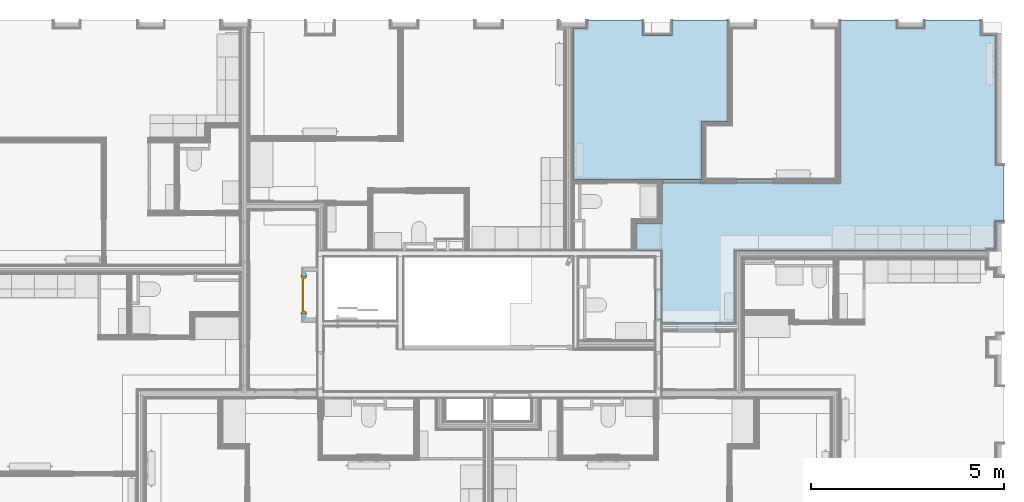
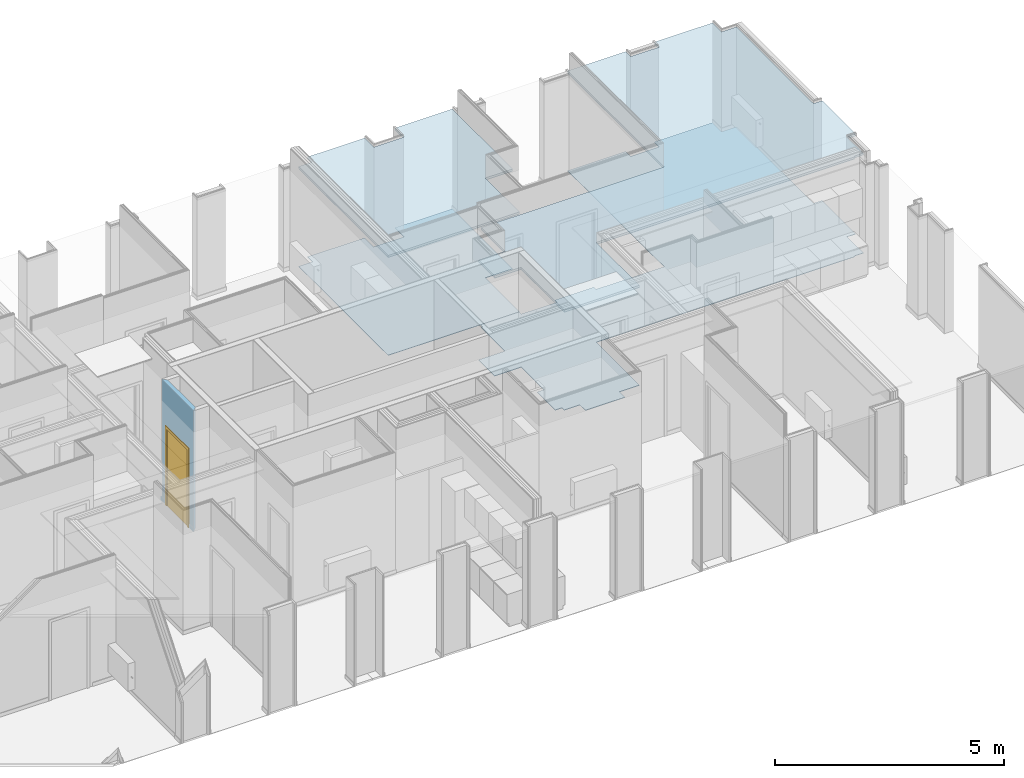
# One storey, part 46 of 64: 6 slabs, 1 door, 1 opening, plus 1 element that does not belong to this part.
"""IFC2X3 building model written with IfcOpenShell, lengths in metres."""

from ifc_helpers import new_model, entity, si_unit, converted_unit, derived_unit, money_unit, direction, frame, frame_2d, origin_with_axes, place, context, subcontext, project, spatial, polyline, rectangle, outline, extrude, clip, bounded_halfspace, faceted_brep, material, layer, layer_set, layer_usage, type_object, element, fill, save


model = new_model("IFC2X3")

# Units and contexts
model_context = context("Model", 3, precision=1e-05, world=origin_with_axes(), true_north=direction((0.0, 1.0)))
body_context = subcontext(model_context, "Body", "Model", "MODEL_VIEW", scale=1.0)
ifc_project = project(units=[si_unit("LENGTHUNIT", "METRE"), si_unit("AREAUNIT", "SQUARE_METRE"), si_unit("VOLUMEUNIT", "CUBIC_METRE"), si_unit("ABSORBEDDOSEUNIT", "GRAY"), si_unit("AMOUNTOFSUBSTANCEUNIT", "MOLE"), si_unit("DOSEEQUIVALENTUNIT", "SIEVERT"), si_unit("ELECTRICCAPACITANCEUNIT", "FARAD"), si_unit("ELECTRICCHARGEUNIT", "COULOMB"), si_unit("ELECTRICCONDUCTANCEUNIT", "SIEMENS"), si_unit("ELECTRICCURRENTUNIT", "AMPERE"), si_unit("ELECTRICRESISTANCEUNIT", "OHM"), si_unit("ELECTRICVOLTAGEUNIT", "VOLT"), si_unit("ENERGYUNIT", "JOULE"), si_unit("FORCEUNIT", "NEWTON"), si_unit("FREQUENCYUNIT", "HERTZ"), si_unit("ILLUMINANCEUNIT", "LUX"), si_unit("INDUCTANCEUNIT", "HENRY"), si_unit("LUMINOUSFLUXUNIT", "LUMEN"), si_unit("LUMINOUSINTENSITYUNIT", "CANDELA"), si_unit("MAGNETICFLUXDENSITYUNIT", "TESLA"), si_unit("MAGNETICFLUXUNIT", "WEBER"), si_unit("MASSUNIT", "GRAM"), converted_unit("PLANEANGLEUNIT", "degree", entity("IfcReal", 0.0174532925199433), si_unit("PLANEANGLEUNIT", "RADIAN"), dimensions=[0, 0, 0, 0, 0, 0, 0]), si_unit("POWERUNIT", "WATT"), si_unit("PRESSUREUNIT", "PASCAL"), si_unit("RADIOACTIVITYUNIT", "BECQUEREL"), si_unit("SOLIDANGLEUNIT", "STERADIAN"), si_unit("THERMODYNAMICTEMPERATUREUNIT", "KELVIN"), si_unit("TIMEUNIT", "SECOND"), derived_unit("ACCELERATIONUNIT", [(si_unit("LENGTHUNIT", "METRE"), 1), (si_unit("TIMEUNIT", "SECOND"), -2)]), derived_unit("ANGULARVELOCITYUNIT", [(converted_unit("PLANEANGLEUNIT", "degree", entity("IfcReal", 0.0174532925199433), si_unit("PLANEANGLEUNIT", "RADIAN"), dimensions=[0, 0, 0, 0, 0, 0, 0]), 1), (si_unit("TIMEUNIT", "SECOND"), -1)]), derived_unit("CURVATUREUNIT", [(converted_unit("PLANEANGLEUNIT", "degree", entity("IfcReal", 0.0174532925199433), si_unit("PLANEANGLEUNIT", "RADIAN"), dimensions=[0, 0, 0, 0, 0, 0, 0]), 1), (si_unit("LENGTHUNIT", "METRE"), -1)]), derived_unit("DYNAMICVISCOSITYUNIT", [(si_unit("PRESSUREUNIT", "PASCAL"), 1), (si_unit("TIMEUNIT", "SECOND"), 1)]), derived_unit("HEATFLUXDENSITYUNIT", [(si_unit("POWERUNIT", "WATT"), 1), (si_unit("LENGTHUNIT", "METRE"), -2)]), derived_unit("HEATINGVALUEUNIT", [(si_unit("ENERGYUNIT", "JOULE"), 1), (si_unit("MASSUNIT", "GRAM"), -1)]), derived_unit("INTEGERCOUNTRATEUNIT", [(si_unit("TIMEUNIT", "SECOND"), -1)]), derived_unit("IONCONCENTRATIONUNIT", [(si_unit("MASSUNIT", "GRAM"), 1), (si_unit("VOLUMEUNIT", "CUBIC_METRE"), -1)]), derived_unit("ISOTHERMALMOISTURECAPACITYUNIT", [(si_unit("VOLUMEUNIT", "CUBIC_METRE"), 1), (si_unit("MASSUNIT", "GRAM"), -1)]), derived_unit("KINEMATICVISCOSITYUNIT", [(si_unit("AREAUNIT", "SQUARE_METRE"), 1), (si_unit("TIMEUNIT", "SECOND"), -1)]), derived_unit("LINEARFORCEUNIT", [(si_unit("FORCEUNIT", "NEWTON"), 1), (si_unit("LENGTHUNIT", "METRE"), -1)]), derived_unit("LINEARMOMENTUNIT", [(si_unit("FORCEUNIT", "NEWTON"), 1), (si_unit("LENGTHUNIT", "METRE"), -1)]), derived_unit("LINEARSTIFFNESSUNIT", [(si_unit("FORCEUNIT", "NEWTON"), 1), (si_unit("LENGTHUNIT", "METRE"), -1)]), derived_unit("LINEARVELOCITYUNIT", [(si_unit("LENGTHUNIT", "METRE"), 1), (si_unit("TIMEUNIT", "SECOND"), -1)]), derived_unit("LUMINOUSINTENSITYDISTRIBUTIONUNIT", [(si_unit("LUMINOUSINTENSITYUNIT", "CANDELA"), 1), (si_unit("LUMINOUSFLUXUNIT", "LUMEN"), -1)]), derived_unit("MASSDENSITYUNIT", [(si_unit("MASSUNIT", "GRAM"), 1), (si_unit("VOLUMEUNIT", "CUBIC_METRE"), -1)]), derived_unit("MASSFLOWRATEUNIT", [(si_unit("MASSUNIT", "GRAM"), 1), (si_unit("TIMEUNIT", "SECOND"), -1)]), derived_unit("MASSPERLENGTHUNIT", [(si_unit("MASSUNIT", "GRAM"), 1), (si_unit("LENGTHUNIT", "METRE"), -1)]), derived_unit("MODULUSOFELASTICITYUNIT", [(si_unit("FORCEUNIT", "NEWTON"), 1), (si_unit("AREAUNIT", "SQUARE_METRE"), -1)]), derived_unit("MODULUSOFLINEARSUBGRADEREACTIONUNIT", [(si_unit("FORCEUNIT", "NEWTON"), 1), (si_unit("LENGTHUNIT", "METRE"), -2)]), derived_unit("MODULUSOFROTATIONALSUBGRADEREACTIONUNIT", [(si_unit("FORCEUNIT", "NEWTON"), 1), (si_unit("LENGTHUNIT", "METRE"), 1)]), derived_unit("MODULUSOFSUBGRADEREACTIONUNIT", [(si_unit("FORCEUNIT", "NEWTON"), 1), (si_unit("VOLUMEUNIT", "CUBIC_METRE"), -1)]), derived_unit("MOISTUREDIFFUSIVITYUNIT", [(si_unit("VOLUMEUNIT", "CUBIC_METRE"), 1), (si_unit("TIMEUNIT", "SECOND"), -1)]), derived_unit("MOLECULARWEIGHTUNIT", [(si_unit("MASSUNIT", "GRAM"), 1), (si_unit("AMOUNTOFSUBSTANCEUNIT", "MOLE"), -1)]), derived_unit("PLANARFORCEUNIT", [(si_unit("FORCEUNIT", "NEWTON"), 1), (si_unit("LENGTHUNIT", "METRE"), -2)]), derived_unit("ROTATIONALFREQUENCYUNIT", [(si_unit("TIMEUNIT", "SECOND"), -1)]), derived_unit("ROTATIONALMASSUNIT", [(si_unit("MASSUNIT", "GRAM"), 1), (si_unit("LENGTHUNIT", "METRE"), 2)]), derived_unit("ROTATIONALSTIFFNESSUNIT", [(si_unit("FORCEUNIT", "NEWTON"), 1), (si_unit("LENGTHUNIT", "METRE"), 1), (converted_unit("PLANEANGLEUNIT", "degree", entity("IfcReal", 0.0174532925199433), si_unit("PLANEANGLEUNIT", "RADIAN"), dimensions=[0, 0, 0, 0, 0, 0, 0]), -1)]), derived_unit("SECTIONAREAINTEGRALUNIT", [(si_unit("LENGTHUNIT", "METRE"), 5)]), derived_unit("SECTIONMODULUSUNIT", [(si_unit("LENGTHUNIT", "METRE"), 3)]), derived_unit("SHEARMODULUSUNIT", [(si_unit("FORCEUNIT", "NEWTON"), 1), (si_unit("AREAUNIT", "SQUARE_METRE"), -1)]), derived_unit("SOUNDPOWERUNIT", [(si_unit("ENERGYUNIT", "JOULE"), 1), (si_unit("TIMEUNIT", "SECOND"), -1)]), derived_unit("SPECIFICHEATCAPACITYUNIT", [(si_unit("FORCEUNIT", "NEWTON"), 1), (si_unit("MASSUNIT", "GRAM"), -1), (si_unit("THERMODYNAMICTEMPERATUREUNIT", "KELVIN"), -1)]), derived_unit("TEMPERATUREGRADIENTUNIT", [(si_unit("THERMODYNAMICTEMPERATUREUNIT", "KELVIN"), 1), (si_unit("LENGTHUNIT", "METRE"), -1)]), derived_unit("THERMALADMITTANCEUNIT", [(si_unit("POWERUNIT", "WATT"), 1), (si_unit("AREAUNIT", "SQUARE_METRE"), -1), (si_unit("THERMODYNAMICTEMPERATUREUNIT", "KELVIN"), -1)]), derived_unit("THERMALCONDUCTANCEUNIT", [(si_unit("POWERUNIT", "WATT"), 1), (si_unit("LENGTHUNIT", "METRE"), -1), (si_unit("THERMODYNAMICTEMPERATUREUNIT", "KELVIN"), -1)]), derived_unit("THERMALEXPANSIONCOEFFICIENTUNIT", [(si_unit("THERMODYNAMICTEMPERATUREUNIT", "KELVIN"), -1)]), derived_unit("THERMALRESISTANCEUNIT", [(si_unit("AREAUNIT", "SQUARE_METRE"), 1), (si_unit("POWERUNIT", "WATT"), -1)]), derived_unit("THERMALTRANSMITTANCEUNIT", [(si_unit("POWERUNIT", "WATT"), 1), (si_unit("AREAUNIT", "SQUARE_METRE"), -1), (si_unit("THERMODYNAMICTEMPERATUREUNIT", "KELVIN"), -1)]), derived_unit("TORQUEUNIT", [(si_unit("FORCEUNIT", "NEWTON"), 1), (si_unit("LENGTHUNIT", "METRE"), 1)]), derived_unit("VAPORPERMEABILITYUNIT", [(si_unit("MASSUNIT", "GRAM"), 1), (si_unit("TIMEUNIT", "SECOND"), -1)]), derived_unit("VOLUMETRICFLOWRATEUNIT", [(si_unit("VOLUMEUNIT", "CUBIC_METRE"), 1), (si_unit("TIMEUNIT", "SECOND"), -1)]), derived_unit("WARPINGCONSTANTUNIT", [(si_unit("LENGTHUNIT", "METRE"), 6)]), derived_unit("WARPINGMOMENTUNIT", [(si_unit("FORCEUNIT", "NEWTON"), 1), (si_unit("LENGTHUNIT", "METRE"), 2)]), money_unit("GBP")], contexts=[model_context])

# Site, building, storey
site_placement = place(None, origin_with_axes())
site = spatial("IfcSite", under=ifc_project, at=site_placement, Name="Site", CompositionType="ELEMENT")
building_placement = place(site_placement, origin_with_axes())
building = spatial("IfcBuilding", under=site, at=building_placement, Name="Building01", CompositionType="ELEMENT")
storey_placement = place(building_placement, frame((0.0, 0.0, 8.64), z_axis=(0.0, 0.0, 1.0), x_axis=(1.0, 0.0, 0.0)))
storey = spatial("IfcBuildingStorey", under=building, at=storey_placement, Name="2F", CompositionType="ELEMENT", Elevation=8.64)

# Slabs
ifc_material_1 = material(Name="A_BSUK_Parquet_Floor")
slab_type_1 = type_object("IfcSlabType", Name="A-FloorsSlabs A_BSUK_Slabs", PredefinedType="FLOOR")
placement = place(storey_placement, frame((0.0, 0.0, -8.64), z_axis=(0.0, 0.0, 1.0), x_axis=(1.0, 0.0, 0.0)))
element("IfcSlab", 1, at=placement, inside=storey, type_object=slab_type_1, material=ifc_material_1, Name="A-FloorsSlabs A_BSUK_Slabs", ObjectType="CompoundSlabLeaf", context=body_context, shape_type="Brep", body=[
    faceted_brep([(18.392, 6.69, 8.643), (18.392, 6.69, 8.655), (18.392, 6.93, 8.655), (18.392, 6.93, 8.643), (19.392, 6.69, 8.643), (19.392, 6.69, 8.655), (19.392, 6.93, 8.643), (19.392, 6.93, 8.655), (19.897661, 6.93, 8.643), (19.897661, 6.93, 8.655), (19.897661, 8.82, 8.643), (19.897661, 8.82, 8.655), (26.432, 8.82, 8.643), (26.432, 8.82, 8.655), (26.432, 8.848, 8.643), (26.432, 8.848, 8.655), (26.662, 8.848, 8.643), (26.662, 8.848, 8.655), (26.662, 9.56218, 8.643), (26.662, 9.56218, 8.655), (26.88, 9.56218, 8.643), (26.88, 9.56218, 8.655), (26.88, 11.03218, 8.643), (26.88, 11.03218, 8.655), (26.662, 11.03218, 8.643), (26.662, 11.03218, 8.655), (26.662, 14.402, 8.643), (26.662, 14.402, 8.655), (26.285, 14.402, 8.643), (26.285, 14.402, 8.655), (26.285, 14.8, 8.643), (26.285, 14.8, 8.655), (24.815, 14.8, 8.643), (24.815, 14.8, 8.655), (24.815, 14.582, 8.643), (24.815, 14.582, 8.655), (24.095, 14.582, 8.643), (24.095, 14.582, 8.655), (24.095, 14.8, 8.643), (24.095, 14.8, 8.655), (22.625, 14.8, 8.643), (22.625, 14.8, 8.655), (22.625, 10.57, 8.643), (22.625, 10.57, 8.655), (20.902284, 10.57, 8.643), (20.902284, 10.57, 8.655), (20.902284, 10.665, 8.643), (20.902284, 10.665, 8.655), (19.918284, 10.665, 8.643), (19.918284, 10.665, 8.655), (19.918284, 10.57, 8.643), (19.918284, 10.57, 8.655), (19.017398, 10.57, 8.643), (19.017398, 10.57, 8.655), (19.017398, 10.665, 8.643), (19.017398, 10.665, 8.655), (18.033398, 10.665, 8.643), (18.033398, 10.665, 8.655), (18.033398, 10.57, 8.643), (18.033398, 10.57, 8.655), (18.0, 10.57, 8.643), (18.0, 10.57, 8.655), (18.0, 9.967396, 8.643), (18.0, 9.967396, 8.655), (18.0, 9.525, 8.643), (18.0, 9.525, 8.655), (17.333132, 9.525, 8.643), (17.333132, 9.525, 8.655), (17.333132, 8.82, 8.643), (17.333132, 8.82, 8.655), (17.905, 8.82, 8.643), (17.905, 8.82, 8.655), (18.0, 8.82, 8.643), (18.0, 8.82, 8.655), (18.0, 7.82088, 8.643), (18.0, 7.82088, 8.655), (17.83, 7.82088, 8.643), (17.83, 7.82088, 8.655), (17.83, 7.02888, 8.643), (17.83, 7.02888, 8.655), (18.0, 7.02888, 8.643), (18.0, 7.02888, 8.655), (18.0, 6.93, 8.643), (18.0, 6.93, 8.655)], [[[0, 1, 2, 3]], [[4, 5, 1, 0]], [[6, 7, 5, 4]], [[8, 9, 7, 6]], [[10, 11, 9, 8]], [[12, 13, 11, 10]], [[14, 15, 13, 12]], [[16, 17, 15, 14]], [[18, 19, 17, 16]], [[20, 21, 19, 18]], [[22, 23, 21, 20]], [[24, 25, 23, 22]], [[26, 27, 25, 24]], [[28, 29, 27, 26]], [[30, 31, 29, 28]], [[32, 33, 31, 30]], [[34, 35, 33, 32]], [[36, 37, 35, 34]], [[38, 39, 37, 36]], [[40, 41, 39, 38]], [[42, 43, 41, 40]], [[44, 45, 43, 42]], [[46, 47, 45, 44]], [[48, 49, 47, 46]], [[50, 51, 49, 48]], [[52, 53, 51, 50]], [[54, 55, 53, 52]], [[56, 57, 55, 54]], [[58, 59, 57, 56]], [[60, 61, 59, 58]], [[62, 63, 61, 60]], [[64, 65, 63, 62]], [[66, 67, 65, 64]], [[68, 69, 67, 66]], [[70, 71, 69, 68]], [[72, 73, 71, 70]], [[74, 75, 73, 72]], [[76, 77, 75, 74]], [[78, 79, 77, 76]], [[80, 81, 79, 78]], [[82, 83, 81, 80]], [[3, 2, 83, 82]], [[1, 5, 7, 9, 11, 13, 15, 17, 19, 21, 23, 25, 27, 29, 31, 33, 35, 37, 39, 41, 43, 45, 47, 49, 51, 53, 55, 57, 59, 61, 63, 65, 67, 69, 71, 73, 75, 77, 79, 81, 83, 2]], [[3, 82, 80, 78, 76, 74, 72, 70, 68, 66, 64, 62, 60, 58, 56, 54, 52, 50, 48, 46, 44, 42, 40, 38, 36, 34, 32, 30, 28, 26, 24, 22, 20, 18, 16, 14, 12, 10, 8, 6, 4, 0]]]),
])
ifc_material_2 = material(Name="A_BSUK_Carpet-Pile")
element("IfcSlab", 2, at=placement, inside=storey, type_object=slab_type_1, material=ifc_material_2, Name="A-FloorsSlabs A_BSUK_Slabs", ObjectType="CompoundSlabLeaf", context=body_context, shape_type="Brep", body=[
    faceted_brep([(15.708132, 10.665, 8.643), (15.708132, 10.665, 8.655), (15.708132, 14.582, 8.655), (15.708132, 14.582, 8.643), (19.025284, 10.665, 8.643), (19.025284, 10.665, 8.655), (19.025284, 12.159378, 8.643), (19.025284, 12.159378, 8.655), (19.715, 12.159378, 8.643), (19.715, 12.159378, 8.655), (19.715, 14.8, 8.643), (19.715, 14.8, 8.655), (18.268, 14.8, 8.643), (18.268, 14.8, 8.655), (18.268, 14.402, 8.643), (18.268, 14.402, 8.655), (17.502, 14.402, 8.643), (17.502, 14.402, 8.655), (17.502, 14.8, 8.643), (17.502, 14.8, 8.655), (16.055, 14.8, 8.643), (16.055, 14.8, 8.655), (16.055, 14.582, 8.643), (16.055, 14.582, 8.655)], [[[0, 1, 2, 3]], [[4, 5, 1, 0]], [[6, 7, 5, 4]], [[8, 9, 7, 6]], [[10, 11, 9, 8]], [[12, 13, 11, 10]], [[14, 15, 13, 12]], [[16, 17, 15, 14]], [[18, 19, 17, 16]], [[20, 21, 19, 18]], [[22, 23, 21, 20]], [[3, 2, 23, 22]], [[1, 5, 7, 9, 11, 13, 15, 17, 19, 21, 23, 2]], [[3, 22, 20, 18, 16, 14, 12, 10, 8, 6, 4, 0]]]),
])
ifc_material_3 = material(Name="A_BSUK_CeilingSoffitFinishes_Suspended")
element("IfcSlab", 3, at=placement, inside=storey, type_object=slab_type_1, material=ifc_material_3, Name="A-FloorsSlabs A_BSUK_Slabs", ObjectType="CompoundSlabLeaf", context=body_context, shape_type="Brep", body=[
    faceted_brep([(18.395, 6.93, 11.255), (18.395, 6.93, 11.27), (18.0, 6.93, 11.27), (18.0, 6.93, 11.255), (19.395, 6.93, 11.255), (19.395, 6.93, 11.27), (19.897661, 6.93, 11.255), (19.897661, 6.93, 11.27), (19.897661, 8.82, 11.255), (19.897661, 8.82, 11.27), (26.417, 8.82, 11.255), (26.417, 8.82, 11.27), (26.417, 8.863, 11.255), (26.417, 8.863, 11.27), (26.647, 8.863, 11.255), (26.647, 8.863, 11.27), (26.647, 9.57718, 11.255), (26.647, 9.57718, 11.27), (26.88, 9.57718, 11.255), (26.88, 9.57718, 11.27), (26.88, 11.03218, 11.255), (26.88, 11.03218, 11.27), (26.662, 11.03218, 11.255), (26.662, 11.03218, 11.27), (26.662, 14.402, 11.255), (26.662, 14.402, 11.27), (26.285, 14.402, 11.255), (26.285, 14.402, 11.27), (26.285, 14.8, 11.255), (26.285, 14.8, 11.27), (24.815, 14.8, 11.255), (24.815, 14.8, 11.27), (24.815, 14.582, 11.255), (24.815, 14.582, 11.27), (24.095, 14.582, 11.255), (24.095, 14.582, 11.27), (24.095, 14.8, 11.255), (24.095, 14.8, 11.27), (22.625, 14.8, 11.255), (22.625, 14.8, 11.27), (22.625, 10.57, 11.255), (22.625, 10.57, 11.27), (19.891284, 10.57, 11.255), (19.891284, 10.57, 11.27), (19.044398, 10.57, 11.255), (19.044398, 10.57, 11.27), (18.0, 10.57, 11.255), (18.0, 10.57, 11.27), (18.0, 9.525, 11.255), (18.0, 9.525, 11.27), (17.333132, 9.525, 11.255), (17.333132, 9.525, 11.27), (17.333132, 8.82, 11.255), (17.333132, 8.82, 11.27), (18.0, 8.82, 11.255), (18.0, 8.82, 11.27), (18.0, 7.82088, 11.255), (18.0, 7.82088, 11.27), (18.0, 7.02888, 11.255), (18.0, 7.02888, 11.27)], [[[0, 1, 2, 3]], [[4, 5, 1, 0]], [[6, 7, 5, 4]], [[8, 9, 7, 6]], [[10, 11, 9, 8]], [[12, 13, 11, 10]], [[14, 15, 13, 12]], [[16, 17, 15, 14]], [[18, 19, 17, 16]], [[20, 21, 19, 18]], [[22, 23, 21, 20]], [[24, 25, 23, 22]], [[26, 27, 25, 24]], [[28, 29, 27, 26]], [[30, 31, 29, 28]], [[32, 33, 31, 30]], [[34, 35, 33, 32]], [[36, 37, 35, 34]], [[38, 39, 37, 36]], [[40, 41, 39, 38]], [[42, 43, 41, 40]], [[44, 45, 43, 42]], [[46, 47, 45, 44]], [[48, 49, 47, 46]], [[50, 51, 49, 48]], [[52, 53, 51, 50]], [[54, 55, 53, 52]], [[56, 57, 55, 54]], [[58, 59, 57, 56]], [[3, 2, 59, 58]], [[1, 5, 7, 9, 11, 13, 15, 17, 19, 21, 23, 25, 27, 29, 31, 33, 35, 37, 39, 41, 43, 45, 47, 49, 51, 53, 55, 57, 59, 2]], [[3, 58, 56, 54, 52, 50, 48, 46, 44, 42, 40, 38, 36, 34, 32, 30, 28, 26, 24, 22, 20, 18, 16, 14, 12, 10, 8, 6, 4, 0]]]),
])
element("IfcSlab", 4, at=placement, inside=storey, type_object=slab_type_1, material=ifc_material_3, Name="A-FloorsSlabs A_BSUK_Slabs", ObjectType="CompoundSlabLeaf", context=body_context, shape_type="Brep", body=[
    faceted_brep([(15.708132, 10.665, 11.255), (15.708132, 10.665, 11.27), (15.708132, 14.567, 11.27), (15.708132, 14.567, 11.255), (19.025284, 10.665, 11.255), (19.025284, 10.665, 11.27), (19.025284, 12.159378, 11.255), (19.025284, 12.159378, 11.27), (19.715, 12.159378, 11.255), (19.715, 12.159378, 11.27), (19.715, 14.8, 11.255), (19.715, 14.8, 11.27), (18.268, 14.8, 11.255), (18.268, 14.8, 11.27), (18.268, 14.402, 11.255), (18.268, 14.402, 11.27), (17.502, 14.402, 11.255), (17.502, 14.402, 11.27), (17.502, 14.8, 11.255), (17.502, 14.8, 11.27), (16.070124, 14.8, 11.255), (16.070124, 14.8, 11.27), (16.070124, 14.567, 11.255), (16.070124, 14.567, 11.27)], [[[0, 1, 2, 3]], [[4, 5, 1, 0]], [[6, 7, 5, 4]], [[8, 9, 7, 6]], [[10, 11, 9, 8]], [[12, 13, 11, 10]], [[14, 15, 13, 12]], [[16, 17, 15, 14]], [[18, 19, 17, 16]], [[20, 21, 19, 18]], [[22, 23, 21, 20]], [[3, 2, 23, 22]], [[1, 5, 7, 9, 11, 13, 15, 17, 19, 21, 23, 2]], [[3, 22, 20, 18, 16, 14, 12, 10, 8, 6, 4, 0]]]),
])
ifc_material_4 = material(Name="A_BSUK_ExpandedPolystyreneBoards")
slab_type_2 = type_object("IfcSlabType", Name="A-FloorsSlabs A_BSUK_ExpandedPolystyreneBoards", PredefinedType="FLOOR")
element("IfcSlab", 5, at=placement, inside=storey, type_object=slab_type_2, material=ifc_material_4, Name="A-FloorsSlabs A_BSUK_ExpandedPolystyreneBoards", ObjectType="CompoundSlabLeaf", context=body_context, shape_type="Brep", body=[
    faceted_brep([(18.395, 6.93, 11.27), (18.395, 6.93, 11.32), (18.0, 6.93, 11.32), (18.0, 6.93, 11.27), (19.395, 6.93, 11.27), (19.395, 6.93, 11.32), (19.897661, 6.93, 11.27), (19.897661, 6.93, 11.32), (19.897661, 8.82, 11.27), (19.897661, 8.82, 11.32), (26.432, 8.82, 11.27), (26.432, 8.82, 11.32), (26.432, 8.848, 11.27), (26.432, 8.848, 11.32), (26.662, 8.848, 11.27), (26.662, 8.848, 11.32), (26.662, 9.56218, 11.27), (26.662, 9.56218, 11.32), (26.88, 9.56218, 11.27), (26.88, 9.56218, 11.32), (26.88, 11.03218, 11.27), (26.88, 11.03218, 11.32), (26.662, 11.03218, 11.27), (26.662, 11.03218, 11.32), (26.662, 14.402, 11.27), (26.662, 14.402, 11.32), (26.285, 14.402, 11.27), (26.285, 14.402, 11.32), (26.285, 14.8, 11.27), (26.285, 14.8, 11.32), (24.815, 14.8, 11.27), (24.815, 14.8, 11.32), (24.815, 14.582, 11.27), (24.815, 14.582, 11.32), (24.095, 14.582, 11.27), (24.095, 14.582, 11.32), (24.095, 14.8, 11.27), (24.095, 14.8, 11.32), (22.625, 14.8, 11.27), (22.625, 14.8, 11.32), (22.625, 10.57, 11.27), (22.625, 10.57, 11.32), (19.891284, 10.57, 11.27), (19.891284, 10.57, 11.32), (19.044398, 10.57, 11.27), (19.044398, 10.57, 11.32), (18.0, 10.57, 11.27), (18.0, 10.57, 11.32), (18.0, 9.525, 11.27), (18.0, 9.525, 11.32), (17.333132, 9.525, 11.27), (17.333132, 9.525, 11.32), (17.333132, 8.82, 11.27), (17.333132, 8.82, 11.32), (18.0, 8.82, 11.27), (18.0, 8.82, 11.32), (18.0, 7.82088, 11.27), (18.0, 7.82088, 11.32), (18.0, 7.02888, 11.27), (18.0, 7.02888, 11.32)], [[[0, 1, 2, 3]], [[4, 5, 1, 0]], [[6, 7, 5, 4]], [[8, 9, 7, 6]], [[10, 11, 9, 8]], [[12, 13, 11, 10]], [[14, 15, 13, 12]], [[16, 17, 15, 14]], [[18, 19, 17, 16]], [[20, 21, 19, 18]], [[22, 23, 21, 20]], [[24, 25, 23, 22]], [[26, 27, 25, 24]], [[28, 29, 27, 26]], [[30, 31, 29, 28]], [[32, 33, 31, 30]], [[34, 35, 33, 32]], [[36, 37, 35, 34]], [[38, 39, 37, 36]], [[40, 41, 39, 38]], [[42, 43, 41, 40]], [[44, 45, 43, 42]], [[46, 47, 45, 44]], [[48, 49, 47, 46]], [[50, 51, 49, 48]], [[52, 53, 51, 50]], [[54, 55, 53, 52]], [[56, 57, 55, 54]], [[58, 59, 57, 56]], [[3, 2, 59, 58]], [[1, 5, 7, 9, 11, 13, 15, 17, 19, 21, 23, 25, 27, 29, 31, 33, 35, 37, 39, 41, 43, 45, 47, 49, 51, 53, 55, 57, 59, 2]], [[3, 58, 56, 54, 52, 50, 48, 46, 44, 42, 40, 38, 36, 34, 32, 30, 28, 26, 24, 22, 20, 18, 16, 14, 12, 10, 8, 6, 4, 0]]]),
])
element("IfcSlab", 6, at=placement, inside=storey, type_object=slab_type_2, material=ifc_material_4, Name="A-FloorsSlabs A_BSUK_ExpandedPolystyreneBoards", ObjectType="CompoundSlabLeaf", context=body_context, shape_type="Brep", body=[
    faceted_brep([(15.708132, 10.665, 11.27), (15.708132, 10.665, 11.32), (15.708132, 14.582, 11.32), (15.708132, 14.582, 11.27), (19.025284, 10.665, 11.27), (19.025284, 10.665, 11.32), (19.025284, 12.159378, 11.27), (19.025284, 12.159378, 11.32), (19.715, 12.159378, 11.27), (19.715, 12.159378, 11.32), (19.715, 14.8, 11.27), (19.715, 14.8, 11.32), (18.268, 14.8, 11.27), (18.268, 14.8, 11.32), (18.268, 14.402, 11.27), (18.268, 14.402, 11.32), (17.502, 14.402, 11.27), (17.502, 14.402, 11.32), (17.502, 14.8, 11.27), (17.502, 14.8, 11.32), (16.055, 14.8, 11.27), (16.055, 14.8, 11.32), (16.055, 14.582, 11.27), (16.055, 14.582, 11.32)], [[[0, 1, 2, 3]], [[4, 5, 1, 0]], [[6, 7, 5, 4]], [[8, 9, 7, 6]], [[10, 11, 9, 8]], [[12, 13, 11, 10]], [[14, 15, 13, 12]], [[16, 17, 15, 14]], [[18, 19, 17, 16]], [[20, 21, 19, 18]], [[22, 23, 21, 20]], [[3, 2, 23, 22]], [[1, 5, 7, 9, 11, 13, 15, 17, 19, 21, 23, 2]], [[3, 22, 20, 18, 16, 14, 12, 10, 8, 6, 4, 0]]]),
])

# Wall, opening
ifc_material_5 = material(Name="A_BSUK_WallInternal_Finishes_Plasterboard")
ifc_layer_1 = layer(ifc_material_5, 0.015, ventilated=False)
ifc_material_6 = material(Name="Air Cavity")
ifc_layer_2 = layer(ifc_material_6, 0.072, ventilated=False)
ifc_material_7 = material(Name="A_BSUK_Walls_Timber")
ifc_layer_3 = layer(ifc_material_7, 0.015, ventilated=False)
ifc_layer_set = layer_set([ifc_layer_1, ifc_layer_2, ifc_layer_1, ifc_layer_3])
ifc_layer_usage = layer_usage(ifc_layer_set, "AXIS2", "POSITIVE", 0.0)
wall_type = type_object("IfcWallType", Name="SHE_A-Walls_Type04c_RiserWall_102mm_tall", PredefinedType="NOTDEFINED")
wall_placement = place(storey_placement, frame((8.658, 6.968405, 0.015), z_axis=(0.0, 0.0, 1.0), x_axis=(0.0, 1.0, 0.0)))
wall = element("IfcWallStandardCase", 7, at=wall_placement, inside=storey, type_object=wall_type, material=ifc_layer_usage, Name="4C", ObjectType="SHE_A-Walls_Type04c_RiserWall_102mm_tall", context=body_context, shape_type="Clipping", body=[
    clip(clip(extrude(outline(polyline([(1.389, -0.015), (1.389, 0.0), (1.404, 0.0), (1.419, 0.015), (-0.015, 0.015), (0.102, -0.102), (1.302, -0.102), (1.389, -0.015)])), frame((0.0, 0.0, -0.015), z_axis=(0.0, 0.0, 1.0), x_axis=(1.0, 0.0, 0.0)), (0.0, 0.0, 1.0), 3.24), bounded_halfspace(frame((0.0, 0.0, 0.1), z_axis=(0.0, 0.0, 1.0), x_axis=(1.0, 0.0, 0.0)), False, frame((0.0, 0.0, 0.1), z_axis=(0.0, 0.0, 1.0), x_axis=(1.0, 0.0, 0.0)), polyline([(1.419, 0.015), (-0.015, 0.015), (0.0, 0.0), (1.404, 0.0), (1.419, 0.015)]))), bounded_halfspace(frame((0.0, 0.0, 0.0), z_axis=(0.0, 0.0, -1.0), x_axis=(-1.0, 0.0, 0.0)), False, frame((0.0, 0.0, 0.0), z_axis=(0.0, 0.0, -1.0), x_axis=(-1.0, 0.0, 0.0)), polyline([(-1.404, 0.0), (0.0, 0.0), (0.015, 0.015), (-1.419, 0.015), (-1.404, 0.0)]))),
])
opening_placement = place(wall_placement, frame((0.21, -0.102, -0.015), z_axis=(0.0, 0.0, 1.0), x_axis=(1.0, 0.0, 0.0)))
opening = element("IfcOpeningElement", 8, at=opening_placement, cuts=wall, Name="Opening", ObjectType="Opening", context=body_context, shape_type="SweptSolid", body=[
    extrude(rectangle(XDim=0.984, YDim=2.1, at=frame_2d((-0.492, 1.05), x_axis=(1.0, 0.0))), frame((0.0, 0.0, 0.0), z_axis=(0.0, 1.0, 0.0), x_axis=(-1.0, 0.0, 0.0)), (0.0, 0.0, 1.0), 0.117),
])

# Space
space_placement = place(storey_placement, frame((7.287055, 5.205, 0.017932), z_axis=(0.0, 0.0, 1.0), x_axis=(1.0, 0.0, 0.0)))
space = spatial("IfcSpace", under=storey, at=space_placement, Name="2", CompositionType="ELEMENT", InteriorOrExteriorSpace="NOTDEFINED")

# Door
ifc_material_8 = material(Name="A_BSUK_Doors")
door_style = type_object("IfcDoorStyle", Name="A-Doors-DoubleFlush", ConstructionType="USERDEFINED", OperationType="DOUBLE_DOOR_SINGLE_SWING", ParameterTakesPrecedence=False, Sizeable=False)
door_placement = place(opening_placement, frame((0.042, 0.102, 0.0), z_axis=(0.0, 0.0, 1.0), x_axis=(1.0, 0.0, 0.0)))
door = element("IfcDoor", 9, at=door_placement, inside=space, type_object=door_style, material=ifc_material_8, Name="2.28", ObjectType="A-Doors-DoubleFlush", OverallHeight=2.1, OverallWidth=0.983999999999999, context=body_context, shape_type="Brep", body=[
    faceted_brep([(0.0, -0.121, 2.058), (0.9, -0.121, 2.058), (0.9, -0.121, 0.0), (0.969, -0.121, 0.0), (0.969, -0.121, 2.127), (-0.069, -0.121, 2.127), (-0.069, -0.121, 0.0), (0.0, -0.121, 0.0), (0.969, -0.102, 2.127), (0.969, -0.102, 0.0), (-0.069, -0.102, 0.0), (-0.069, -0.102, 2.127), (-0.042, -0.102, 0.0), (-0.042, 0.0, 0.0), (-0.069, 0.0, 0.0), (-0.069, 0.019, 0.0), (0.0, 0.019, 0.0), (0.0, 0.019, 2.058), (0.9, 0.019, 2.058), (-0.069, 0.019, 2.127), (0.969, 0.019, 2.127), (0.969, 0.019, 0.0), (0.9, 0.019, 0.0), (-0.069, 0.0, 2.127), (-0.042, 0.0, 2.1), (-0.042, -0.102, 2.1), (0.942, 0.0, 2.1), (0.942, -0.102, 2.1), (0.942, -0.102, 0.0), (0.942, 0.0, 0.0), (0.969, 0.0, 0.0), (0.969, 0.0, 2.127)], [[[0, 1, 2, 3, 4, 5, 6, 7]], [[8, 4, 3, 9]], [[10, 6, 5, 11]], [[11, 5, 4, 8]], [[7, 6, 10, 12, 13, 14, 15, 16]], [[7, 16, 17, 0]], [[0, 17, 18, 1]], [[17, 16, 15, 19, 20, 21, 22, 18]], [[1, 18, 22, 2]], [[14, 23, 19, 15]], [[24, 13, 12, 25]], [[26, 24, 25, 27]], [[11, 8, 9, 28, 27, 25, 12, 10]], [[27, 28, 29, 26]], [[26, 29, 30, 31, 23, 14, 13, 24]], [[22, 21, 30, 29, 28, 9, 3, 2]], [[30, 21, 20, 31]], [[31, 20, 19, 23]]]),
    faceted_brep([(0.9, -0.09, 0.0), (0.9, -0.04, 0.0), (0.9, -0.04, 2.058), (0.9, -0.09, 2.058), (0.025, -0.09, 2.033), (0.875, -0.09, 2.033), (0.875, -0.09, 0.0), (0.0, -0.09, 2.058), (0.0, -0.09, 0.0), (0.025, -0.09, 0.0), (0.0, -0.04, 0.0), (0.025, -0.04, 0.0), (0.0, -0.04, 2.058), (0.025, -0.04, 2.033), (0.875, -0.04, 0.0), (0.875, -0.04, 2.033)], [[[0, 1, 2, 3]], [[4, 5, 6, 0, 3, 7, 8, 9]], [[9, 8, 10, 11]], [[3, 2, 12, 7]], [[7, 12, 10, 8]], [[13, 11, 10, 12, 2, 1, 14, 15]], [[5, 15, 14, 6]], [[14, 1, 0, 6]], [[9, 11, 13, 4]], [[4, 13, 15, 5]]]),
    faceted_brep([(0.0, -0.04, 2.058), (0.0, 0.0, 2.058), (0.0, 0.0, 0.0), (0.0, -0.04, 0.0), (0.45, -0.04, 0.0), (0.45, 0.0, 0.0), (0.45, 0.0, 2.058), (0.45, -0.04, 2.058)], [[[0, 1, 2, 3]], [[4, 5, 6, 7]], [[3, 2, 5, 4]], [[3, 4, 7, 0]], [[7, 6, 1, 0]], [[1, 6, 5, 2]]]),
    faceted_brep([(0.45, -0.04, 2.058), (0.45, 0.0, 2.058), (0.45, 0.0, 0.0), (0.45, -0.04, 0.0), (0.9, -0.04, 0.0), (0.9, 0.0, 0.0), (0.9, 0.0, 2.058), (0.9, -0.04, 2.058)], [[[0, 1, 2, 3]], [[4, 5, 6, 7]], [[3, 2, 5, 4]], [[3, 4, 7, 0]], [[7, 6, 1, 0]], [[1, 6, 5, 2]]]),
])

fill(opening, door)

save(model, "model.ifc")
